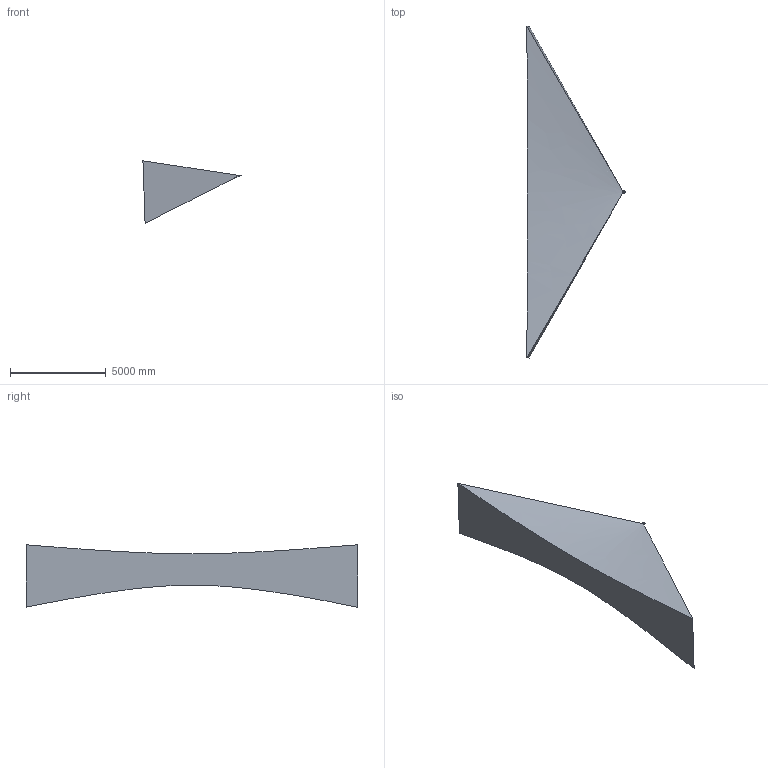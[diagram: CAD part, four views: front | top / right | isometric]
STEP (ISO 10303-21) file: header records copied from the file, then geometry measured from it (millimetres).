
FILE_DESCRIPTION (( 'STEP AP214' ), '1' );
FILE_NAME ('ATX-SPG-20250626.STEP', '2025-06-26T15:18:01', ( '' ), ( '' ), 'SwSTEP 2.0', 'SolidWorks 2019', '' );
FILE_SCHEMA (( 'AUTOMOTIVE_DESIGN' ));
Products named in the file (1): ATX-SPG-20250626
Bounding box: 5133.69 x 17358.56 x 3266.88 mm (x, y, z)
Surface area: 160505975.6 mm2 (no closed solid volume)
Topology: 0 solids, 11 shells, 6592 faces, 18510 edges, 11889 vertices
Faces by surface type: cylinder 2202, plane 1905, bspline 1616, torus 365, cone 321, sphere 183
Entity records: 306033 total; most frequent: CARTESIAN_POINT 158878, ORIENTED_EDGE 36628, DIRECTION 22114, EDGE_CURVE 18316, VERTEX_POINT 11877, B_SPLINE_CURVE_WITH_KNOTS 8119, AXIS2_PLACEMENT_3D 7712, EDGE_LOOP 6737
